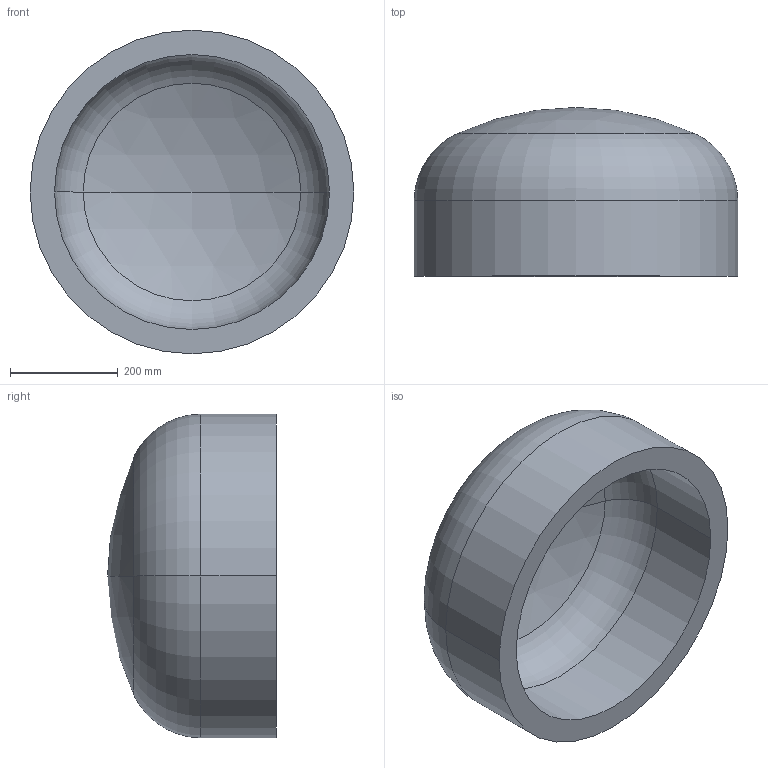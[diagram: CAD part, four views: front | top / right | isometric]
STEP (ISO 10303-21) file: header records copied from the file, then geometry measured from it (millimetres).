
FILE_DESCRIPTION (( 'STEP AP203' ), '1' );
FILE_NAME ('DIN 28013 Korbbogenform_-_Boden DIN 28013 - 600 x 140 - I - s=45.step', '2016-07-01T08:00:58', ( '' ), ( '' ), 'SwSTEP 2.0', 'SolidWorks 2013', '' );
FILE_SCHEMA (( 'CONFIG_CONTROL_DESIGN' ));
Length unit declared in the file: millimetre
Products named in the file (1): DIN 28013 Korbbogenform_-_Boden DIN 28013 - 600 x 140 - I - s=45
Bounding box: 600 x 312.9 x 600 mm (x, y, z)
Volume: 27003005.8 mm3; surface area: 1282835.8 mm2
Topology: 1 solids, 1 shells, 13 faces, 24 edges, 14 vertices
Faces by surface type: torus 4, cylinder 4, sphere 4, plane 1
Entity records: 407 total; most frequent: DIRECTION 72, CARTESIAN_POINT 52, ORIENTED_EDGE 48, AXIS2_PLACEMENT_3D 34, EDGE_CURVE 24, CIRCLE 20, EDGE_LOOP 14, VERTEX_POINT 14
